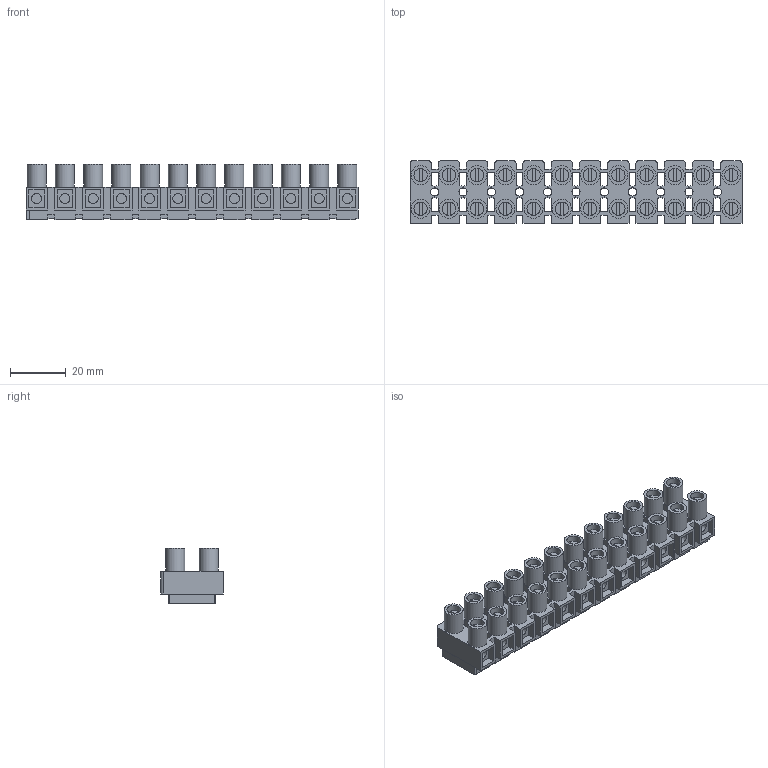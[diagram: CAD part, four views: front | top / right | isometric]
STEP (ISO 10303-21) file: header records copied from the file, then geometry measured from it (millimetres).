
FILE_DESCRIPTION(/* description */ ('Unknown'),/* implementation_level */ '2;1');
FILE_NAME(/* name */ 'MTB 4',/* time_stamp */ '2021-10-08T09:49:00+02:00',/* author */ ('Unknown'),/* organization */ ('Unknown'),/* preprocessor_version */ 'ST-DEVELOPER v16.7',/* originating_system */ 'Solid Edge',/* authorisation */ 'Unknown');
FILE_SCHEMA (('AUTOMOTIVE_DESIGN {1 0 10303 214 3 1 1}'));
Length unit declared in the file: millimetre
Products named in the file (1): MTB 4
Bounding box: 118.7 x 22.4 x 19.9 mm (x, y, z)
Volume: 21722.5 mm3; surface area: 23266.6 mm2
Topology: 1 solids, 1 shells, 910 faces, 2521 edges, 1664 vertices
Faces by surface type: plane 712, cylinder 198
Full cylindrical faces by diameter (mm): 2.9 x11, 3.6 x24, 4.8 x24, 6.8 x24
Entity records: 28320 total; most frequent: CARTESIAN_POINT 5141, ORIENTED_EDGE 4806, DIRECTION 4616, EDGE_CURVE 2403, LINE 1880, VECTOR 1880, VERTEX_POINT 1629, AXIS2_PLACEMENT_3D 1368
